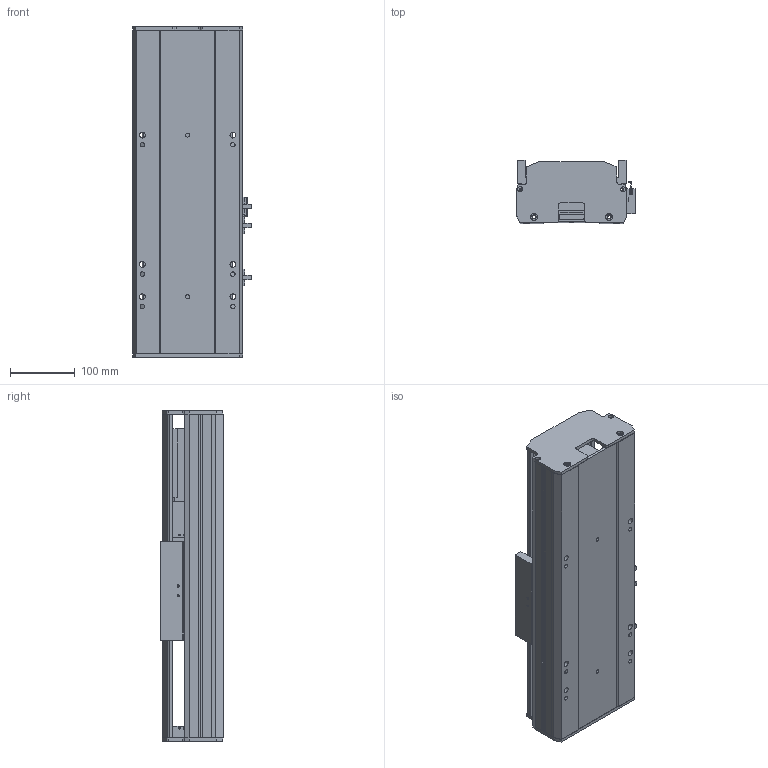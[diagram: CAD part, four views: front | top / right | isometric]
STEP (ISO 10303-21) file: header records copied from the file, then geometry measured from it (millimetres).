
FILE_DESCRIPTION (( 'STEP AP203' ), '1' );
FILE_NAME ('Y170-D10-S100-M-P400W.STEP', '2020-01-22T12:16:11', ( '微软用户' ), ( '微软中国' ), 'SwSTEP 2.0', 'SolidWorks 2017', '' );
FILE_SCHEMA (( 'CONFIG_CONTROL_DESIGN' ));
Length unit declared in the file: millimetre
Products named in the file (12): 170--掛极-M; Y170嘐隅傷-M; Y170耜裔--準---M; san松下电机400不带刹车----; YD-Y100-135-新外置传感挡片(通用）; Y170-赻蚕傷; Y100-135俋离換覜ん; Y170-陔遴奻裔-M; 135-盓傅釱-FK15; Y170-D10-S100-M-P400W; Y170耜裔--準---; Y170--雄赽釱-梓--
Assembly tree (13 placements, depth 2):
  Y170-D10-S100-M-P400W
    YD-Y100-135-新外置传感挡片(通用）
    Y100-135俋离換覜ん  x3
    135-盓傅釱-FK15
    Y170耜裔--準---
    Y170--雄赽釱-梓--
    170--掛极-M
    Y170嘐隅傷-M
    Y170耜裔--準---M
    san松下电机400不带刹车----
    Y170-赻蚕傷
    Y170-陔遴奻裔-M
Bounding box: 183.5 x 97 x 511 mm (x, y, z)
Volume: 3043099.5 mm3; surface area: 962039.2 mm2
Topology: 13 solids, 13 shells, 929 faces, 2534 edges, 1680 vertices
Faces by surface type: plane 484, cylinder 443, torus 2
Entity records: 29420 total; most frequent: CARTESIAN_POINT 5005, DIRECTION 4960, ORIENTED_EDGE 4732, EDGE_CURVE 2366, AXIS2_PLACEMENT_3D 1747, VERTEX_POINT 1568, VECTOR 1466, LINE 1466
